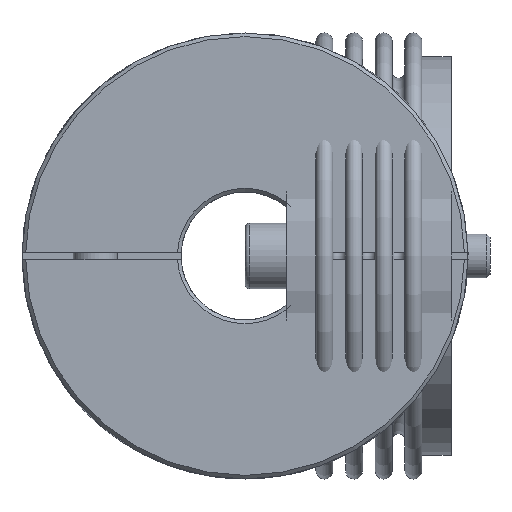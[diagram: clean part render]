
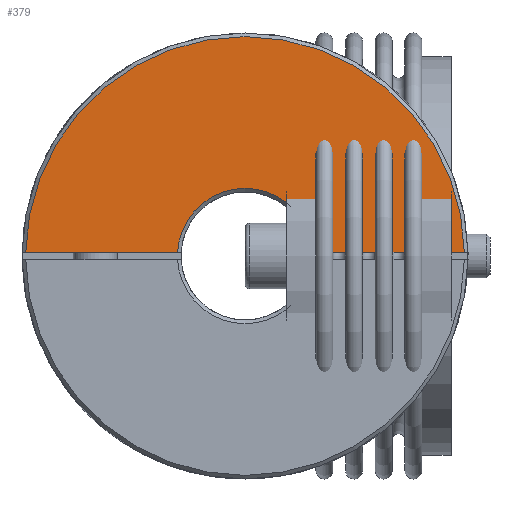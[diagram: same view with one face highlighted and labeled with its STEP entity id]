
A CAD part, front view. The second image highlights one B-rep face of the part: STEP entity #379.
In plain terms, the highlighted planar face has unit normal (0, -1, 0).
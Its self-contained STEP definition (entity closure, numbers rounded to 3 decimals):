
#379 = ADVANCED_FACE( '', ( #633 ), #634, .F. );
#633 = FACE_OUTER_BOUND( '', #881, .T. );
#634 = PLANE( '', #882 );
#881 = EDGE_LOOP( '', ( #1208, #1209, #1210, #1211 ) );
#882 = AXIS2_PLACEMENT_3D( '', #1212, #1213, #1214 );
#1208 = ORIENTED_EDGE( '', *, *, #1598, .T. );
#1209 = ORIENTED_EDGE( '', *, *, #1604, .T. );
#1210 = ORIENTED_EDGE( '', *, *, #1618, .T. );
#1211 = ORIENTED_EDGE( '', *, *, #1614, .T. );
#1212 = CARTESIAN_POINT( '', ( 0., -52., 0. ) );
#1213 = DIRECTION( '', ( 0., 1., 0. ) );
#1214 = DIRECTION( '', ( 0., 0., 1. ) );
#1598 = EDGE_CURVE( '', #1759, #1757, #1760, .T. );
#1604 = EDGE_CURVE( '', #1757, #1768, #1770, .T. );
#1614 = EDGE_CURVE( '', #1788, #1759, #1789, .F. );
#1618 = EDGE_CURVE( '', #1768, #1788, #1794, .T. );
#1757 = VERTEX_POINT( '', #2021 );
#1759 = VERTEX_POINT( '', #2026 );
#1760 = LINE( '', #2027, #2028 );
#1768 = VERTEX_POINT( '', #2041 );
#1770 = CIRCLE( '', #2046, 18.5 );
#1788 = VERTEX_POINT( '', #2160 );
#1789 = CIRCLE( '', #2161, 60. );
#1794 = LINE( '', #2170, #2171 );
#2021 = CARTESIAN_POINT( '', ( -18.473, -52., 1. ) );
#2026 = CARTESIAN_POINT( '', ( -59.992, -52., 1. ) );
#2027 = CARTESIAN_POINT( '', ( 0., -52., 1. ) );
#2028 = VECTOR( '', #2477, 1000. );
#2041 = CARTESIAN_POINT( '', ( 18.473, -52., 1. ) );
#2046 = AXIS2_PLACEMENT_3D( '', #2483, #2484, #2485 );
#2160 = CARTESIAN_POINT( '', ( 59.992, -52., 1. ) );
#2161 = AXIS2_PLACEMENT_3D( '', #2508, #2509, #2510 );
#2170 = CARTESIAN_POINT( '', ( 0., -52., 1. ) );
#2171 = VECTOR( '', #2515, 1000. );
#2477 = DIRECTION( '', ( 1., 0., 0. ) );
#2483 = CARTESIAN_POINT( '', ( 0., -52., 0. ) );
#2484 = DIRECTION( '', ( 0., 1., 0. ) );
#2485 = DIRECTION( '', ( 0., 0., 1. ) );
#2508 = CARTESIAN_POINT( '', ( 0., -52., 0. ) );
#2509 = DIRECTION( '', ( 0., 1., 0. ) );
#2510 = DIRECTION( '', ( 0., 0., 1. ) );
#2515 = DIRECTION( '', ( 1., 0., 0. ) );
